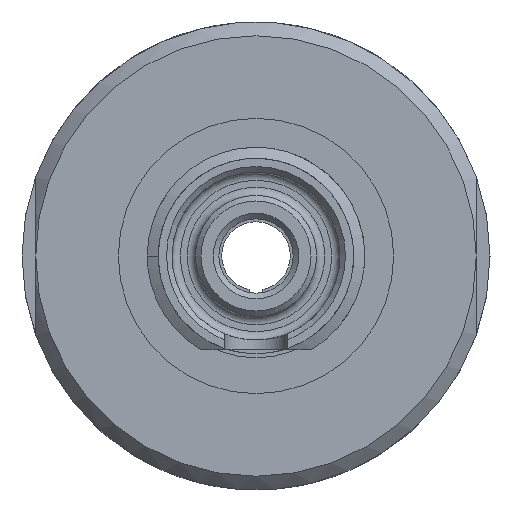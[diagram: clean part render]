
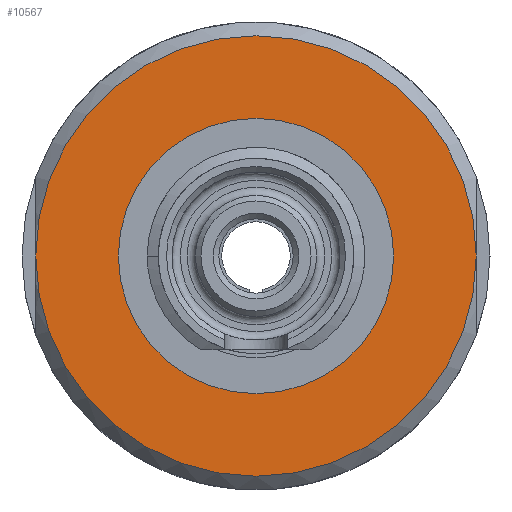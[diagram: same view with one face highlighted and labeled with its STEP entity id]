
A CAD part, left-side view. The second image highlights one B-rep face of the part: STEP entity #10567.
In plain terms, the highlighted planar face has unit normal (-1, 0, 0).
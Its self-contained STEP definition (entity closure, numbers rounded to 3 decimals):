
#829 = AXIS2_PLACEMENT_3D ( 'NONE', #15961, #10757, #11942 ) ;
#878 = EDGE_CURVE ( 'NONE', #9041, #4729, #14348, .T. ) ;
#1375 = DIRECTION ( 'NONE',  ( 0., 0., 1. ) ) ;
#1806 = CARTESIAN_POINT ( 'NONE',  ( -157.34, 27.679, 18.841 ) ) ;
#1823 = CARTESIAN_POINT ( 'NONE',  ( -157.34, 27.679, 13.841 ) ) ;
#1966 = ORIENTED_EDGE ( 'NONE', *, *, #10844, .T. ) ;
#3519 = ORIENTED_EDGE ( 'NONE', *, *, #14685, .T. ) ;
#4146 = ORIENTED_EDGE ( 'NONE', *, *, #878, .T. ) ;
#4324 = VERTEX_POINT ( 'NONE', #1806 ) ;
#4468 = AXIS2_PLACEMENT_3D ( 'NONE', #10394, #5228, #1375 ) ;
#4729 = VERTEX_POINT ( 'NONE', #9216 ) ;
#4755 = DIRECTION ( 'NONE',  ( 0., 0., 1. ) ) ;
#5228 = DIRECTION ( 'NONE',  ( -1., 0., 0. ) ) ;
#6918 = DIRECTION ( 'NONE',  ( -1., 0., 0. ) ) ;
#6995 = PLANE ( 'NONE',  #829 ) ;
#7745 = CARTESIAN_POINT ( 'NONE',  ( -157.34, 35.679, 13.841 ) ) ;
#9041 = VERTEX_POINT ( 'NONE', #7745 ) ;
#9216 = CARTESIAN_POINT ( 'NONE',  ( -157.34, 19.679, 13.841 ) ) ;
#10003 = DIRECTION ( 'NONE',  ( 1., 0., 0. ) ) ;
#10394 = CARTESIAN_POINT ( 'NONE',  ( -157.34, 27.679, 13.841 ) ) ;
#10428 = AXIS2_PLACEMENT_3D ( 'NONE', #1823, #6918, #12020 ) ;
#10567 = ADVANCED_FACE ( 'NONE', ( #10916, #15800 ), #6995, .F. ) ;
#10757 = DIRECTION ( 'NONE',  ( 1., 0., 0. ) ) ;
#10793 = AXIS2_PLACEMENT_3D ( 'NONE', #16392, #10003, #4755 ) ;
#10844 = EDGE_CURVE ( 'NONE', #4729, #9041, #12046, .T. ) ;
#10916 = FACE_OUTER_BOUND ( 'NONE', #13419, .T. ) ;
#11942 = DIRECTION ( 'NONE',  ( 0., 0., 1. ) ) ;
#12020 = DIRECTION ( 'NONE',  ( 0., 0., 1. ) ) ;
#12046 = CIRCLE ( 'NONE', #10428, 8. ) ;
#12686 = CIRCLE ( 'NONE', #10793, 5. ) ;
#13002 = EDGE_LOOP ( 'NONE', ( #3519 ) ) ;
#13419 = EDGE_LOOP ( 'NONE', ( #1966, #4146 ) ) ;
#14348 = CIRCLE ( 'NONE', #4468, 8. ) ;
#14685 = EDGE_CURVE ( 'NONE', #4324, #4324, #12686, .T. ) ;
#15800 = FACE_BOUND ( 'NONE', #13002, .T. ) ;
#15961 = CARTESIAN_POINT ( 'NONE',  ( -157.34, 27.679, 13.841 ) ) ;
#16392 = CARTESIAN_POINT ( 'NONE',  ( -157.34, 27.679, 13.841 ) ) ;
